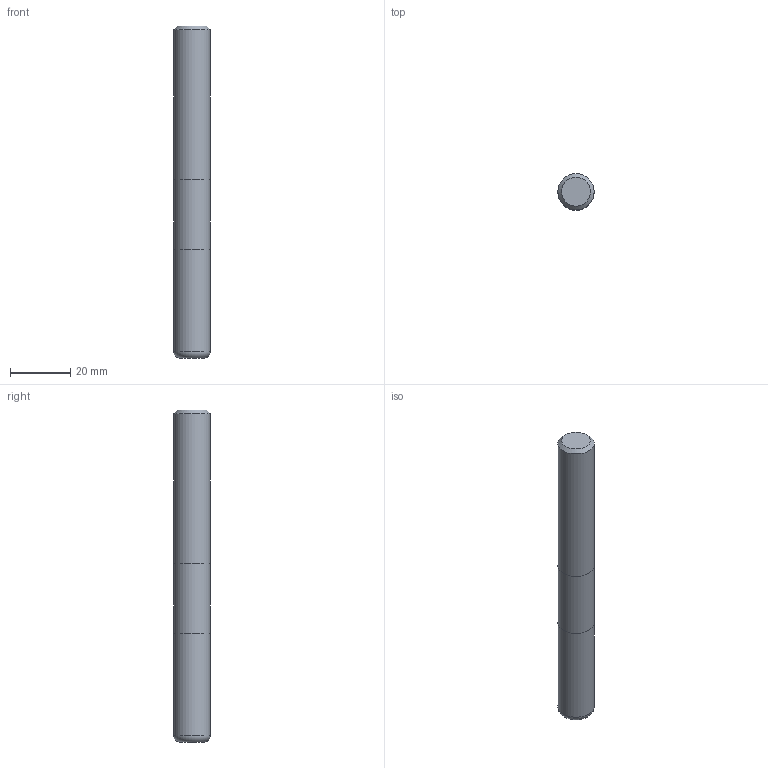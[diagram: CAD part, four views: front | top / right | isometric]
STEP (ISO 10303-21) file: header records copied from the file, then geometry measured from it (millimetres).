
FILE_DESCRIPTION((''),'2;1');
FILE_NAME('C:\Users\nsx150\AppData\Local\Temp\Mastercam 2021\03UJLO2QV3\TEMP.step','2023-09-20T09:30:18',(''),(''),'STEP Write','Mastercam 2021 ... CNC Software, Inc.','');
FILE_SCHEMA(('AUTOMOTIVE_DESIGN'));
Length unit declared in the file: millimetre
Products named in the file (1): None
Bounding box: 12 x 12 x 110 mm (x, y, z)
Volume: 12385.4 mm3; surface area: 4536.8 mm2
Topology: 2 solids, 2 shells, 9 faces, 12 edges, 7 vertices
Faces by surface type: plane 4, cylinder 3, torus 1, cone 1
Full cylindrical faces by diameter (mm): 12 x3
Entity records: 211 total; most frequent: DIRECTION 36, CARTESIAN_POINT 25, AXIS2_PLACEMENT_3D 18, ORIENTED_EDGE 14, EDGE_LOOP 14, STYLED_ITEM 12, ADVANCED_FACE 9, FACE_BOUND 9
